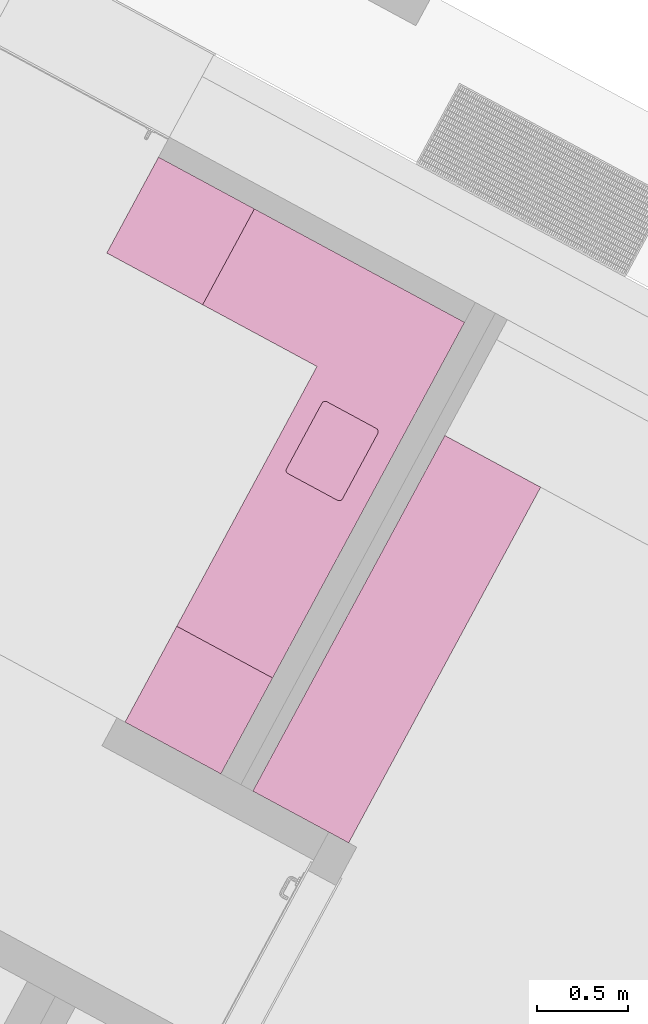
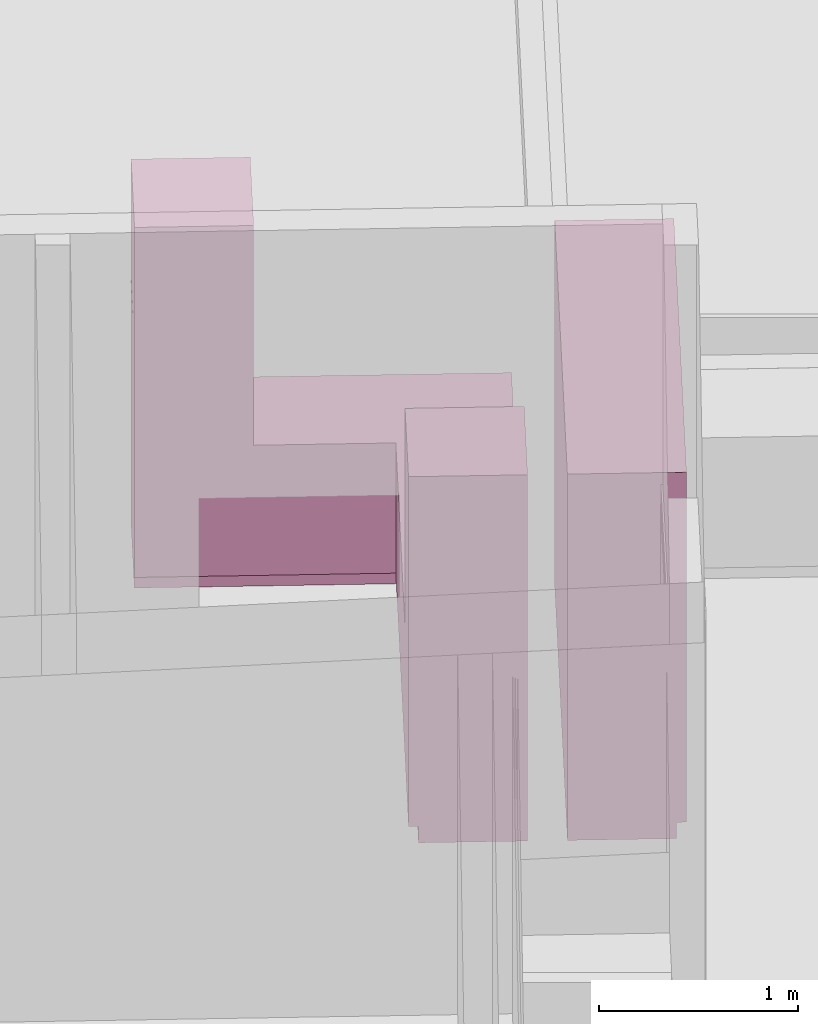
# One storey, part 40 of 52: 2 furnishings.
"""IFC2X3 building model written with IfcOpenShell, lengths in metres."""

from ifc_helpers import new_model, entity, si_unit, converted_unit, derived_unit, money_unit, direction, frame, origin_with_axes, place, context, subcontext, project, spatial, open_shell, faceted_brep, surface_model, type_object, element, save


model = new_model("IFC2X3")

# Units and contexts
model_context = context("Model", 3, precision=1e-05, world=origin_with_axes(), true_north=direction((0.0, 1.0)))
body_context = subcontext(model_context, "Body", "Model", "MODEL_VIEW")
ifc_project = project(units=[si_unit("LENGTHUNIT", "METRE"), si_unit("AREAUNIT", "SQUARE_METRE"), si_unit("VOLUMEUNIT", "CUBIC_METRE"), converted_unit("PLANEANGLEUNIT", "DEGREE", entity("IfcPlaneAngleMeasure", 0.0174532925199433), si_unit("PLANEANGLEUNIT", "RADIAN"), dimensions=[0, 0, 0, 0, 0, 0, 0]), money_unit("EUR"), converted_unit("TIMEUNIT", "Year", entity("IfcTimeMeasure", 31556926.0), si_unit("TIMEUNIT", "SECOND"), dimensions=[0, 0, 1, 0, 0, 0, 0]), si_unit("MASSUNIT", "GRAM", prefix="KILO"), si_unit("THERMODYNAMICTEMPERATUREUNIT", "DEGREE_CELSIUS"), si_unit("LUMINOUSINTENSITYUNIT", "LUMEN"), si_unit("ENERGYUNIT", "JOULE", prefix="MEGA"), derived_unit("THERMALCONDUCTANCEUNIT", [(si_unit("POWERUNIT", "WATT"), 1), (si_unit("LENGTHUNIT", "METRE"), -1), (si_unit("THERMODYNAMICTEMPERATUREUNIT", "KELVIN"), -1)]), derived_unit("SPECIFICHEATCAPACITYUNIT", [(si_unit("ENERGYUNIT", "JOULE"), 1), (si_unit("MASSUNIT", "GRAM", prefix="KILO"), -1), (si_unit("THERMODYNAMICTEMPERATUREUNIT", "KELVIN"), -1)]), derived_unit("MASSDENSITYUNIT", [(si_unit("MASSUNIT", "GRAM", prefix="KILO"), 1), (si_unit("VOLUMEUNIT", "CUBIC_METRE"), -1)])], contexts=[model_context])

# Site, building, storey
site_placement = place(None, frame((-3.949935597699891, 1.740105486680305, 0.0), z_axis=(0.0, 0.0, 1.0), x_axis=(0.8799804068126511, -0.475009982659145, 0.0)))
site = spatial("IfcSite", under=ifc_project, at=site_placement, Name="Gelände", CompositionType="ELEMENT")
building_placement = place(site_placement, origin_with_axes())
building = spatial("IfcBuilding", under=site, at=building_placement, Name="Gebäude", CompositionType="ELEMENT")
storey_placement = place(building_placement, origin_with_axes())
storey = spatial("IfcBuildingStorey", under=building, at=storey_placement, Name="Erdgeschoss", CompositionType="ELEMENT", Elevation=0.0)

# Furnishings
furnishing_element_type = type_object("IfcFurnishingElementType", Name="Konzeptküche 26")
furnishing_1_placement = place(storey_placement, frame((14.01273435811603, 19.24773417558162, 0.0), z_axis=(0.0, 0.0, 1.0), x_axis=(0.0, -1.0, 0.0)))
element("IfcFurnishingElement", 1, at=furnishing_1_placement, inside=storey, type_object=furnishing_element_type, Name="Küche-001", context=body_context, shape_type="Brep", body=[
    faceted_brep([(2.598025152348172, 0.5499982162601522, 0.0), (1.998025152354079, 0.5499955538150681, 0.0), (1.998025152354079, 0.5499955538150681, 0.1), (2.598025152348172, 0.5499982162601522, 0.1), (2.598027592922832, -1.783734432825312e-06, 0.0), (1.998027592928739, -4.446179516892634e-06, 0.0), (1.998027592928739, -4.446179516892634e-06, 0.1), (2.598027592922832, -1.783734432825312e-06, 0.1)], [[[0, 1, 2, 3]], [[0, 4, 5, 1]], [[1, 5, 6, 2]], [[3, 2, 6, 7]], [[4, 0, 3, 7]], [[5, 4, 7, 6]]]),
    faceted_brep([(2.598024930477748, 0.59999821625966, 0.1), (1.998024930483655, 0.5999955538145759, 0.1), (1.998024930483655, 0.5999955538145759, 2.25), (2.598024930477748, 0.59999821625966, 2.25), (2.598027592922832, -1.783734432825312e-06, 0.1), (1.998027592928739, -4.446179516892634e-06, 0.1), (1.998027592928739, -4.446179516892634e-06, 2.25), (2.598027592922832, -1.783734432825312e-06, 2.25)], [[[0, 1, 2, 3]], [[0, 4, 5, 1]], [[1, 5, 6, 2]], [[3, 2, 6, 7]], [[4, 0, 3, 7]], [[5, 4, 7, 6]]]),
    faceted_brep([(3.198025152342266, 0.5500008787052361, 0.0), (2.598025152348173, 0.549998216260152, 0.0), (2.598025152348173, 0.549998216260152, 0.1), (3.198025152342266, 0.5500008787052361, 0.1), (3.198027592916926, 8.787106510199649e-07, 0.0), (2.598027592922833, -1.783734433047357e-06, 0.0), (2.598027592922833, -1.783734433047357e-06, 0.1), (3.198027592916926, 8.787106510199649e-07, 0.1)], [[[0, 1, 2, 3]], [[0, 4, 5, 1]], [[1, 5, 6, 2]], [[3, 2, 6, 7]], [[4, 0, 3, 7]], [[5, 4, 7, 6]]]),
    faceted_brep([(3.198024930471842, 0.6000008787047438, 0.1), (2.598024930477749, 0.5999982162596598, 0.1), (2.598024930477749, 0.5999982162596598, 2.25), (3.198024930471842, 0.6000008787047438, 2.25), (3.198027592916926, 8.787106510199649e-07, 0.1), (2.598027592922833, -1.783734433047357e-06, 0.1), (2.598027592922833, -1.783734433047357e-06, 2.25), (3.198027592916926, 8.787106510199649e-07, 2.25)], [[[0, 1, 2, 3]], [[0, 4, 5, 1]], [[1, 5, 6, 2]], [[3, 2, 6, 7]], [[4, 0, 3, 7]], [[5, 4, 7, 6]]]),
    faceted_brep([(1.398025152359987, 0.5499928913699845, 0.0), (0.9724428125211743, 0.5499910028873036, 0.0), (0.9724428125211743, 0.5499910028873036, 0.1), (1.398025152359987, 0.5499928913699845, 0.1), (1.398027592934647, -7.108624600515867e-06, 0.0), (0.9724452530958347, -8.997107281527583e-06, 0.0), (0.9724452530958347, -8.997107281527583e-06, 0.1), (1.398027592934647, -7.108624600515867e-06, 0.1)], [[[0, 1, 2, 3]], [[0, 4, 5, 1]], [[1, 5, 6, 2]], [[3, 2, 6, 7]], [[4, 0, 3, 7]], [[5, 4, 7, 6]]]),
    faceted_brep([(1.398024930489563, 0.5999928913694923, 0.1), (0.9724425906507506, 0.5999910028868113, 0.1), (0.9724425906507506, 0.5999910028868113, 2.25), (1.398024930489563, 0.5999928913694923, 2.25), (1.398027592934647, -7.108624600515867e-06, 0.1), (0.9724452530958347, -8.997107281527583e-06, 0.1), (0.9724452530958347, -8.997107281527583e-06, 2.25), (1.398027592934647, -7.108624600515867e-06, 2.25)], [[[0, 1, 2, 3]], [[0, 4, 5, 1]], [[1, 5, 6, 2]], [[3, 2, 6, 7]], [[4, 0, 3, 7]], [[5, 4, 7, 6]]]),
    faceted_brep([(1.998025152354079, 0.5499955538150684, 0.0), (1.398025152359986, 0.5499928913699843, 0.0), (1.398025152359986, 0.5499928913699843, 0.1), (1.998025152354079, 0.5499955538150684, 0.1), (1.998027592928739, -4.44617951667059e-06, 0.0), (1.398027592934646, -7.108624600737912e-06, 0.0), (1.398027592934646, -7.108624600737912e-06, 0.1), (1.998027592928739, -4.44617951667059e-06, 0.1)], [[[0, 1, 2, 3]], [[0, 4, 5, 1]], [[1, 5, 6, 2]], [[3, 2, 6, 7]], [[4, 0, 3, 7]], [[5, 4, 7, 6]]]),
    faceted_brep([(1.998024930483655, 0.5999955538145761, 0.1), (1.398024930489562, 0.5999928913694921, 0.1), (1.398024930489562, 0.5999928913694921, 2.25), (1.998024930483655, 0.5999955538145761, 2.25), (1.998027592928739, -4.44617951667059e-06, 0.1), (1.398027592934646, -7.108624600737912e-06, 0.1), (1.398027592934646, -7.108624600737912e-06, 2.25), (1.998027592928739, -4.44617951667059e-06, 2.25)], [[[0, 1, 2, 3]], [[0, 4, 5, 1]], [[1, 5, 6, 2]], [[3, 2, 6, 7]], [[4, 0, 3, 7]], [[5, 4, 7, 6]]]),
])
furnishing_2_placement = place(storey_placement, frame((10.6147076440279, 18.87526417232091, 0.0), z_axis=(0.0, 0.0, 1.0), x_axis=(-0.9999999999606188, -8.874816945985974e-06, 0.0)))
element("IfcFurnishingElement", 2, at=furnishing_2_placement, inside=storey, type_object=furnishing_element_type, Name="Küche-001", context=body_context, shape_type="SurfaceModel", body=[
    faceted_brep([(-1.882684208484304, 0.5500006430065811, 0.0), (-2.648027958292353, 0.5500007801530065, 0.0), (-2.648027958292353, 0.5500007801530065, 0.1), (-1.882684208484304, 0.5500006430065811, 0.1), (-1.882684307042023, 6.430065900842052e-07, 0.0), (-3.198027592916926, 8.787106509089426e-07, 0.0), (-3.198027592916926, 8.787106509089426e-07, 0.1), (-1.882684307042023, 6.430065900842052e-07, 0.1)], [[[0, 1, 2, 3]], [[4, 5, 1, 0]], [[1, 5, 6, 2]], [[3, 2, 6, 7]], [[7, 4, 0, 3]], [[7, 6, 5, 4]]]),
    faceted_brep([(-3.198029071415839, 2.225586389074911, 0.0), (-3.198027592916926, 8.787106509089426e-07, 0.0), (-3.198027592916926, 8.787106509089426e-07, 0.1), (-3.198029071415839, 2.225586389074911, 0.1), (-2.648029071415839, 2.225586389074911, 0.0), (-2.648027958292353, 0.5500007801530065, 0.0), (-2.648027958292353, 0.5500007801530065, 0.1), (-2.648029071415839, 2.225586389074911, 0.1)], [[[0, 1, 2, 3]], [[4, 5, 1, 0]], [[1, 5, 6, 2]], [[3, 2, 6, 7]], [[7, 4, 0, 3]], [[7, 6, 5, 4]]]),
    faceted_brep([(-1.882684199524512, 0.6000006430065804, 0.86), (-2.598027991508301, 0.6000007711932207, 0.86), (-2.598027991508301, 0.6000007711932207, 0.9), (-1.882684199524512, 0.6000006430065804, 0.9), (-1.882684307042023, 6.430065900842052e-07, 0.86), (-3.198027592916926, 8.787106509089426e-07, 0.86), (-3.198027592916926, 8.787106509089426e-07, 0.9), (-1.882684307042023, 6.430065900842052e-07, 0.9)], [[[0, 1, 2, 3]], [[4, 5, 1, 0]], [[1, 5, 6, 2]], [[3, 2, 6, 7]], [[7, 4, 0, 3]], [[7, 6, 5, 4]]]),
    faceted_brep([(-3.198029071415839, 2.225586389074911, 0.86), (-3.198027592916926, 8.787106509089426e-07, 0.86), (-3.198027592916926, 8.787106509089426e-07, 0.9), (-3.198029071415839, 2.225586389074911, 0.9), (-2.598029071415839, 2.225586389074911, 0.86), (-2.598027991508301, 0.6000007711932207, 0.86), (-3.143028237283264, 0.719966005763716, 0.86), (-2.693028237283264, 0.719966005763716, 0.86), (-2.693028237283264, 1.219966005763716, 0.86), (-3.143028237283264, 1.219966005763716, 0.86), (-2.598027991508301, 0.6000007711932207, 0.9), (-2.598029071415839, 2.225586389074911, 0.9), (-2.693028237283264, 1.219966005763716, 0.9), (-2.693028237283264, 0.719966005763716, 0.9), (-3.143028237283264, 0.719966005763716, 0.9), (-3.143028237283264, 1.219966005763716, 0.9)], [[[0, 1, 2, 3]], [[4, 5, 1, 0], [6, 7, 8, 9]], [[2, 1, 5, 10]], [[3, 2, 10, 11], [12, 13, 14, 15]], [[11, 4, 0, 3]], [[11, 10, 5, 4]], [[14, 13, 7, 6]], [[13, 12, 8, 7]], [[12, 15, 9, 8]], [[15, 14, 6, 9]]]),
    faceted_brep([(-1.882684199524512, 0.6000006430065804, 0.09999999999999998), (-2.598027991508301, 0.6000007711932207, 0.09999999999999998), (-2.598027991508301, 0.6000007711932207, 0.86), (-1.882684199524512, 0.6000006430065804, 0.86), (-1.882684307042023, 6.430065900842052e-07, 0.09999999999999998), (-3.198027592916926, 8.787106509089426e-07, 0.09999999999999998), (-3.198027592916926, 8.787106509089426e-07, 0.86), (-1.882684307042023, 6.430065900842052e-07, 0.86)], [[[0, 1, 2, 3]], [[4, 5, 1, 0]], [[1, 5, 6, 2]], [[3, 2, 6, 7]], [[7, 4, 0, 3]], [[7, 6, 5, 4]]]),
    faceted_brep([(-3.198029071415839, 2.225586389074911, 0.09999999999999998), (-3.198027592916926, 8.787106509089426e-07, 0.09999999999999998), (-3.198027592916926, 8.787106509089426e-07, 0.86), (-3.198029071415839, 2.225586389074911, 0.86), (-2.598029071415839, 2.225586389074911, 0.09999999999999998), (-2.598027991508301, 0.6000007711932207, 0.09999999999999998), (-3.143028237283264, 0.719966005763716, 0.09999999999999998), (-2.693028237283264, 0.719966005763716, 0.09999999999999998), (-2.693028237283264, 1.219966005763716, 0.09999999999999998), (-3.143028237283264, 1.219966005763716, 0.09999999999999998), (-2.598027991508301, 0.6000007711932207, 0.86), (-2.598029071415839, 2.225586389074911, 0.86), (-2.693028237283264, 1.219966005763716, 0.86), (-2.693028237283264, 0.719966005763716, 0.86), (-3.143028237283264, 0.719966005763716, 0.86), (-3.143028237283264, 1.219966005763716, 0.86)], [[[0, 1, 2, 3]], [[4, 5, 1, 0], [6, 7, 8, 9]], [[2, 1, 5, 10]], [[3, 2, 10, 11], [12, 13, 14, 15]], [[11, 4, 0, 3]], [[11, 10, 5, 4]], [[14, 13, 7, 6]], [[13, 12, 8, 7]], [[12, 15, 9, 8]], [[15, 14, 6, 9]]]),
    surface_model("IfcShellBasedSurfaceModel", [(-2.718028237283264, 1.174966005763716, 0.705), (-2.718028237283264, 1.174966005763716, 0.8999999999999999), (-2.718028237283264, 0.7649660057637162, 0.8999999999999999), (-2.718028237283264, 0.7649660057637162, 0.705), (-2.719550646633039, 1.182619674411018, 0.705), (-2.719550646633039, 1.182619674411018, 0.8999999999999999), (-2.719550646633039, 0.7573123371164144, 0.8999999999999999), (-2.719550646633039, 0.7573123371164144, 0.705), (-2.723886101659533, 0.7508238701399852, 0.705), (-2.730374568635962, 0.7464884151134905, 0.705), (-2.738028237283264, 0.7449660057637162, 0.705), (-3.048028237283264, 0.7449660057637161, 0.705), (-3.055681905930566, 0.7464884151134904, 0.705), (-3.062170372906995, 0.7508238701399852, 0.705), (-3.06650582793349, 0.7573123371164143, 0.705), (-3.068028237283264, 0.7649660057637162, 0.705), (-3.068028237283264, 1.174966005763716, 0.705), (-3.06650582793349, 1.182619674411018, 0.705), (-3.062170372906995, 1.189108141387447, 0.705), (-3.055681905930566, 1.193443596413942, 0.705), (-3.048028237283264, 1.194966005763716, 0.705), (-2.738028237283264, 1.194966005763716, 0.705), (-2.730374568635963, 1.193443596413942, 0.705), (-2.723886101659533, 1.189108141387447, 0.705), (-2.723886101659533, 1.189108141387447, 0.8999999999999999), (-2.723886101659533, 0.7508238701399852, 0.8999999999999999), (-2.730374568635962, 0.7464884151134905, 0.8999999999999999), (-2.738028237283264, 0.7449660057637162, 0.8999999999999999), (-3.048028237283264, 0.7449660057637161, 0.8999999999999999), (-3.055681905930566, 0.7464884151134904, 0.8999999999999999), (-3.062170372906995, 0.7508238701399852, 0.8999999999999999), (-3.06650582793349, 0.7573123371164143, 0.8999999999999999), (-3.068028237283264, 0.7649660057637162, 0.8999999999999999), (-3.068028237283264, 1.174966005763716, 0.8999999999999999), (-3.06650582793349, 1.182619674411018, 0.8999999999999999), (-3.062170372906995, 1.189108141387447, 0.8999999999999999), (-3.055681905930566, 1.193443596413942, 0.8999999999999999), (-3.048028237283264, 1.194966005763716, 0.8999999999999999), (-2.738028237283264, 1.194966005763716, 0.8999999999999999), (-2.730374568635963, 1.193443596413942, 0.8999999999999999)], [open_shell([[[0, 1, 2, 3]], [[4, 5, 1, 0]], [[3, 2, 6, 7]], [[0, 3, 7, 8, 9, 10, 11, 12, 13, 14, 15, 16, 17, 18, 19, 20, 21, 22, 23, 4]], [[23, 24, 5, 4]], [[7, 6, 25, 8]], [[8, 25, 26, 9]], [[9, 26, 27, 10]], [[10, 27, 28, 11]], [[11, 28, 29, 12]], [[12, 29, 30, 13]], [[13, 30, 31, 14]], [[14, 31, 32, 15]], [[15, 32, 33, 16]], [[16, 33, 34, 17]], [[17, 34, 35, 18]], [[18, 35, 36, 19]], [[19, 36, 37, 20]], [[20, 37, 38, 21]], [[21, 38, 39, 22]], [[22, 39, 24, 23]]])]),
    faceted_brep([(-2.668028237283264, 1.224966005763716, 0.8999999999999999), (-2.668028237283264, 1.224966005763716, 0.9049999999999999), (-2.668028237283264, 0.7149660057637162, 0.9049999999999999), (-2.668028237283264, 0.7149660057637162, 0.8999999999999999), (-2.669550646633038, 1.232619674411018, 0.8999999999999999), (-2.669550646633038, 1.232619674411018, 0.9049999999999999), (-2.673886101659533, 1.239108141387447, 0.9049999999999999), (-2.680374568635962, 1.243443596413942, 0.9049999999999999), (-2.688028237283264, 1.244966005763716, 0.9049999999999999), (-3.148028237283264, 1.244966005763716, 0.9049999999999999), (-3.155681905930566, 1.243443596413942, 0.9049999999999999), (-3.162170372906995, 1.239108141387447, 0.9049999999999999), (-3.16650582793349, 1.232619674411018, 0.9049999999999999), (-3.168028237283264, 1.224966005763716, 0.9049999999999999), (-3.168028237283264, 0.714966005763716, 0.9049999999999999), (-3.16650582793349, 0.7073123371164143, 0.9049999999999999), (-3.162170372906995, 0.700823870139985, 0.9049999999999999), (-3.155681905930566, 0.6964884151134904, 0.9049999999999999), (-3.148028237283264, 0.694966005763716, 0.9049999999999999), (-2.688028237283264, 0.6949660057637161, 0.9049999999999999), (-2.680374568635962, 0.6964884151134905, 0.9049999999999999), (-2.673886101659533, 0.7008238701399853, 0.9049999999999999), (-2.669550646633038, 0.7073123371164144, 0.9049999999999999), (-2.718028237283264, 1.174966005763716, 0.9049999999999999), (-2.718028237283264, 0.7649660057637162, 0.9049999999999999), (-2.719550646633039, 0.7573123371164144, 0.9049999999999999), (-2.723886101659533, 0.7508238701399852, 0.9049999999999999), (-2.730374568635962, 0.7464884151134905, 0.9049999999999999), (-2.738028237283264, 0.7449660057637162, 0.9049999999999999), (-3.048028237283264, 0.7449660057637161, 0.9049999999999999), (-3.055681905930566, 0.7464884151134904, 0.9049999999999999), (-3.062170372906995, 0.7508238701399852, 0.9049999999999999), (-3.06650582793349, 0.7573123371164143, 0.9049999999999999), (-3.068028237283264, 0.7649660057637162, 0.9049999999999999), (-3.068028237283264, 1.174966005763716, 0.9049999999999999), (-3.06650582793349, 1.182619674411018, 0.9049999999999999), (-3.062170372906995, 1.189108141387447, 0.9049999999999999), (-3.055681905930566, 1.193443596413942, 0.9049999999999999), (-3.048028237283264, 1.194966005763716, 0.9049999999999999), (-2.738028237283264, 1.194966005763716, 0.9049999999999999), (-2.730374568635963, 1.193443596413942, 0.9049999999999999), (-2.723886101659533, 1.189108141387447, 0.9049999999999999), (-2.719550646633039, 1.182619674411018, 0.9049999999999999), (-2.669550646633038, 0.7073123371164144, 0.8999999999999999), (-2.673886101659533, 0.7008238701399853, 0.8999999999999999), (-2.680374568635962, 0.6964884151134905, 0.8999999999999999), (-2.688028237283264, 0.6949660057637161, 0.8999999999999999), (-3.148028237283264, 0.694966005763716, 0.8999999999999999), (-3.155681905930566, 0.6964884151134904, 0.8999999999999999), (-3.162170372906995, 0.700823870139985, 0.8999999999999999), (-3.16650582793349, 0.7073123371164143, 0.8999999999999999), (-3.168028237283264, 0.714966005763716, 0.8999999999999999), (-3.168028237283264, 1.224966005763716, 0.8999999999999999), (-3.16650582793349, 1.232619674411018, 0.8999999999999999), (-3.162170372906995, 1.239108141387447, 0.8999999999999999), (-3.155681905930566, 1.243443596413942, 0.8999999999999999), (-3.148028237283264, 1.244966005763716, 0.8999999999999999), (-2.688028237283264, 1.244966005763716, 0.8999999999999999), (-2.680374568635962, 1.243443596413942, 0.8999999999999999), (-2.673886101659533, 1.239108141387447, 0.8999999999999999), (-2.718028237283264, 1.174966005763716, 0.8999999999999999), (-2.719550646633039, 1.182619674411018, 0.8999999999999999), (-2.723886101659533, 1.189108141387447, 0.8999999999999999), (-2.730374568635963, 1.193443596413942, 0.8999999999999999), (-2.738028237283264, 1.194966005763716, 0.8999999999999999), (-3.048028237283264, 1.194966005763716, 0.8999999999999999), (-3.055681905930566, 1.193443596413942, 0.8999999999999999), (-3.062170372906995, 1.189108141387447, 0.8999999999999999), (-3.06650582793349, 1.182619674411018, 0.8999999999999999), (-3.068028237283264, 1.174966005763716, 0.8999999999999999), (-3.068028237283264, 0.7649660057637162, 0.8999999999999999), (-3.06650582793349, 0.7573123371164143, 0.8999999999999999), (-3.062170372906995, 0.7508238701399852, 0.8999999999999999), (-3.055681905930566, 0.7464884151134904, 0.8999999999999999), (-3.048028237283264, 0.7449660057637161, 0.8999999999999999), (-2.738028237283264, 0.7449660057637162, 0.8999999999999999), (-2.730374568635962, 0.7464884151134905, 0.8999999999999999), (-2.723886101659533, 0.7508238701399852, 0.8999999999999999), (-2.719550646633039, 0.7573123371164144, 0.8999999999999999), (-2.718028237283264, 0.7649660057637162, 0.8999999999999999)], [[[0, 1, 2, 3]], [[4, 5, 1, 0]], [[1, 5, 6, 7, 8, 9, 10, 11, 12, 13, 14, 15, 16, 17, 18, 19, 20, 21, 22, 2], [23, 24, 25, 26, 27, 28, 29, 30, 31, 32, 33, 34, 35, 36, 37, 38, 39, 40, 41, 42]], [[3, 2, 22, 43]], [[0, 3, 43, 44, 45, 46, 47, 48, 49, 50, 51, 52, 53, 54, 55, 56, 57, 58, 59, 4], [60, 61, 62, 63, 64, 65, 66, 67, 68, 69, 70, 71, 72, 73, 74, 75, 76, 77, 78, 79]], [[59, 6, 5, 4]], [[58, 7, 6, 59]], [[57, 8, 7, 58]], [[56, 9, 8, 57]], [[55, 10, 9, 56]], [[54, 11, 10, 55]], [[53, 12, 11, 54]], [[52, 13, 12, 53]], [[51, 14, 13, 52]], [[50, 15, 14, 51]], [[49, 16, 15, 50]], [[48, 17, 16, 49]], [[47, 18, 17, 48]], [[46, 19, 18, 47]], [[45, 20, 19, 46]], [[44, 21, 20, 45]], [[43, 22, 21, 44]], [[79, 24, 23, 60]], [[78, 25, 24, 79]], [[77, 26, 25, 78]], [[76, 27, 26, 77]], [[75, 28, 27, 76]], [[74, 29, 28, 75]], [[73, 30, 29, 74]], [[72, 31, 30, 73]], [[71, 32, 31, 72]], [[70, 33, 32, 71]], [[69, 34, 33, 70]], [[68, 35, 34, 69]], [[67, 36, 35, 68]], [[66, 37, 36, 67]], [[65, 38, 37, 66]], [[64, 39, 38, 65]], [[63, 40, 39, 64]], [[62, 41, 40, 63]], [[61, 42, 41, 62]], [[60, 23, 42, 61]]]),
    faceted_brep([(-2.648029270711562, 2.825586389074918, 0.0), (-2.648029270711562, 2.825586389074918, 0.1), (-2.648029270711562, 2.225586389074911, 0.1), (-2.648029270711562, 2.225586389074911, 0.0), (-3.198029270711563, 2.825586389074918, 0.0), (-3.198029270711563, 2.825586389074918, 0.1), (-3.198029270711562, 2.225586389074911, 0.1), (-3.198029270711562, 2.225586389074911, 0.0)], [[[0, 1, 2, 3]], [[4, 5, 1, 0]], [[1, 5, 6, 2]], [[3, 2, 6, 7]], [[0, 3, 7, 4]], [[7, 6, 5, 4]]]),
    faceted_brep([(-2.598029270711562, 2.825586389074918, 0.1), (-2.598029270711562, 2.825586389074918, 2.25), (-2.598029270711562, 2.225586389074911, 2.25), (-2.598029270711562, 2.225586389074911, 0.1), (-3.198029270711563, 2.825586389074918, 0.1), (-3.198029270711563, 2.825586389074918, 2.25), (-3.198029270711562, 2.225586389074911, 2.25), (-3.198029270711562, 2.225586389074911, 0.1)], [[[0, 1, 2, 3]], [[4, 5, 1, 0]], [[1, 5, 6, 2]], [[3, 2, 6, 7]], [[0, 3, 7, 4]], [[7, 6, 5, 4]]]),
    faceted_brep([(-1.882684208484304, 0.5500006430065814, 0.0), (-1.882684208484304, 0.5500006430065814, 0.1), (-1.282684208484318, 0.5500005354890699, 0.1), (-1.282684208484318, 0.5500005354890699, 0.0), (-1.882684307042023, 6.430065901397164e-07, 0.0), (-1.882684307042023, 6.430065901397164e-07, 0.1), (-1.282684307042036, 5.354890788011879e-07, 0.1), (-1.282684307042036, 5.354890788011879e-07, 0.0)], [[[0, 1, 2, 3]], [[4, 5, 1, 0]], [[1, 5, 6, 2]], [[3, 2, 6, 7]], [[0, 3, 7, 4]], [[7, 6, 5, 4]]]),
    faceted_brep([(-1.882684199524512, 0.6000006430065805, 0.1), (-1.882684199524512, 0.6000006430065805, 2.25), (-1.282684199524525, 0.6000005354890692, 2.25), (-1.282684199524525, 0.6000005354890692, 0.1), (-1.882684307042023, 6.430065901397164e-07, 0.1), (-1.882684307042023, 6.430065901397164e-07, 2.25), (-1.282684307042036, 5.354890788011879e-07, 2.25), (-1.282684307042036, 5.354890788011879e-07, 0.1)], [[[0, 1, 2, 3]], [[4, 5, 1, 0]], [[1, 5, 6, 2]], [[3, 2, 6, 7]], [[0, 3, 7, 4]], [[7, 6, 5, 4]]]),
])

save(model, "model.ifc")
